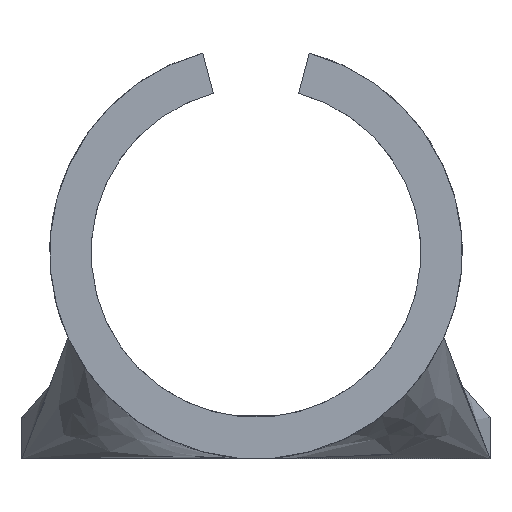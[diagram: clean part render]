
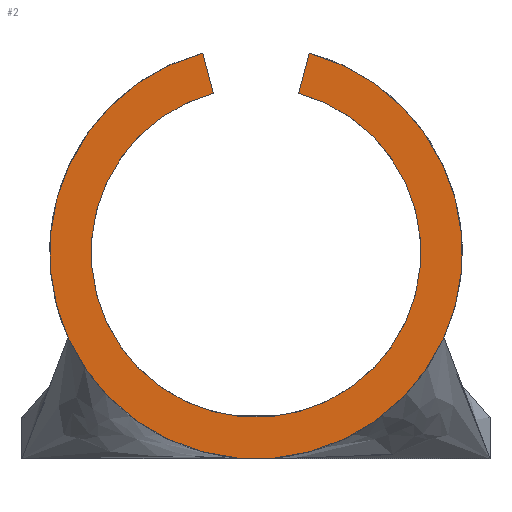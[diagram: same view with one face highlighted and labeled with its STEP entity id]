
A CAD part, front view. The second image highlights one B-rep face of the part: STEP entity #2.
In plain terms, the highlighted planar face has unit normal (0, -1, 0).
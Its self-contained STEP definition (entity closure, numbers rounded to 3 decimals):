
#2 = ADVANCED_FACE ( 'NONE', ( #829 ), #170, .T. ) ;
#55 = AXIS2_PLACEMENT_3D ( 'NONE', #171, #174, #173 ) ;
#170 = PLANE ( 'NONE',  #55 ) ;
#171 = CARTESIAN_POINT ( 'NONE',  ( 0., -39., 9.7 ) ) ;
#173 = DIRECTION ( 'NONE',  ( 0., 0., -1. ) ) ;
#174 = DIRECTION ( 'NONE',  ( 0., -1., 0. ) ) ;
#343 = LINE ( 'NONE', #2154, #350 ) ;
#350 = VECTOR ( 'NONE', #2176, 1000. ) ;
#351 = CIRCLE ( 'NONE', #537, 9.7 ) ;
#352 = VECTOR ( 'NONE', #2168, 1000. ) ;
#371 = CIRCLE ( 'NONE', #541, 7.75 ) ;
#372 = LINE ( 'NONE', #2167, #352 ) ;
#537 = AXIS2_PLACEMENT_3D ( 'NONE', #2179, #2180, #2181 ) ;
#541 = AXIS2_PLACEMENT_3D ( 'NONE', #2149, #2150, #2151 ) ;
#580 = ORIENTED_EDGE ( 'NONE', *, *, #1003, .T. ) ;
#581 = ORIENTED_EDGE ( 'NONE', *, *, #1008, .T. ) ;
#582 = ORIENTED_EDGE ( 'NONE', *, *, #1013, .T. ) ;
#583 = ORIENTED_EDGE ( 'NONE', *, *, #1012, .T. ) ;
#649 = VERTEX_POINT ( 'NONE', #1903 ) ;
#650 = VERTEX_POINT ( 'NONE', #1910 ) ;
#670 = VERTEX_POINT ( 'NONE', #1932 ) ;
#674 = VERTEX_POINT ( 'NONE', #1936 ) ;
#811 = EDGE_LOOP ( 'NONE', ( #580, #581, #582, #583 ) ) ;
#829 = FACE_OUTER_BOUND ( 'NONE', #811, .T. ) ;
#1003 = EDGE_CURVE ( 'NONE', #674, #650, #371, .T. ) ;
#1008 = EDGE_CURVE ( 'NONE', #650, #670, #372, .T. ) ;
#1012 = EDGE_CURVE ( 'NONE', #649, #674, #343, .T. ) ;
#1013 = EDGE_CURVE ( 'NONE', #670, #649, #351, .T. ) ;
#1903 = CARTESIAN_POINT ( 'NONE',  ( 2.503, -39., 19.071 ) ) ;
#1910 = CARTESIAN_POINT ( 'NONE',  ( -2., -39., 17.187 ) ) ;
#1932 = CARTESIAN_POINT ( 'NONE',  ( -2.503, -39., 19.071 ) ) ;
#1936 = CARTESIAN_POINT ( 'NONE',  ( 2., -39., 17.187 ) ) ;
#2149 = CARTESIAN_POINT ( 'NONE',  ( 0., -39., 9.7 ) ) ;
#2150 = DIRECTION ( 'NONE',  ( 0., 1., 0. ) ) ;
#2151 = DIRECTION ( 'NONE',  ( 0., 0., -1. ) ) ;
#2154 = CARTESIAN_POINT ( 'NONE',  ( 2.503, -39., 19.071 ) ) ;
#2167 = CARTESIAN_POINT ( 'NONE',  ( -2., -39., 17.187 ) ) ;
#2168 = DIRECTION ( 'NONE',  ( -0.258, 0., 0.966 ) ) ;
#2176 = DIRECTION ( 'NONE',  ( -0.258, 0., -0.966 ) ) ;
#2179 = CARTESIAN_POINT ( 'NONE',  ( 0., -39., 9.7 ) ) ;
#2180 = DIRECTION ( 'NONE',  ( 0., -1., 0. ) ) ;
#2181 = DIRECTION ( 'NONE',  ( 0., 0., -1. ) ) ;
